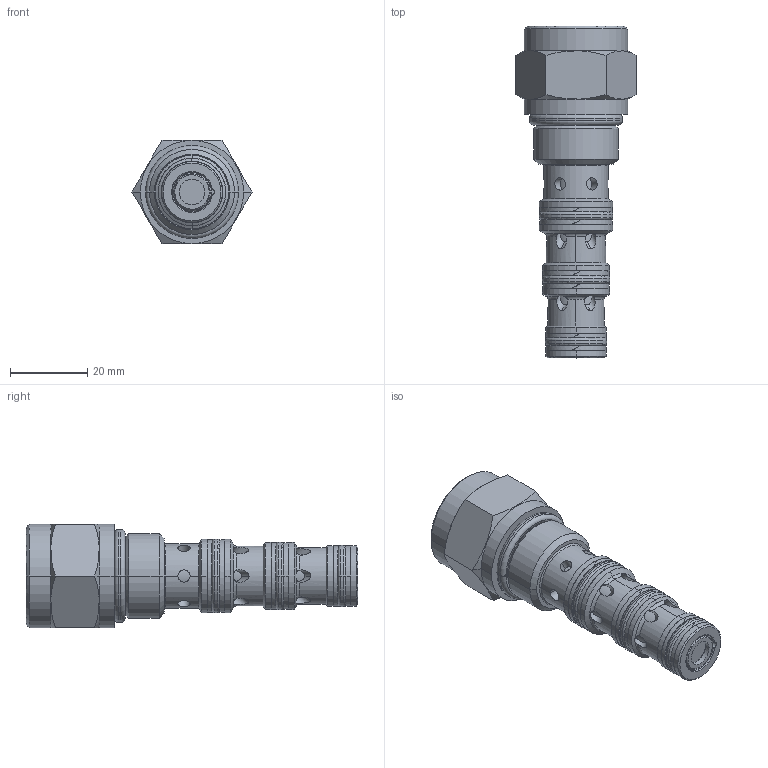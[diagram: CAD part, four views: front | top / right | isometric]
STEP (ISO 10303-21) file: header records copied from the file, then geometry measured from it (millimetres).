
FILE_DESCRIPTION((''),'2;1');
FILE_NAME('PDCV-10-C-0-A','2024-10-24T09:59:13',('salzmanm'),(''),'CREO PARAMETRIC BY PTC INC, 2022281','CREO PARAMETRIC BY PTC INC, 2022281','');
FILE_SCHEMA(('CONFIG_CONTROL_DESIGN'));
Length unit declared in the file: millimetre
Products named in the file (1): PDCV-10-C-0-A
Bounding box: 31.15 x 86.11 x 26.97 mm (x, y, z)
Volume: 29060.1 mm3; surface area: 9007.1 mm2
Topology: 1 solids, 2 shells, 264 faces, 687 edges, 432 vertices
Faces by surface type: cylinder 127, plane 56, torus 52, cone 29
Entity records: 13056 total; most frequent: CARTESIAN_POINT 6595, ORIENTED_EDGE 1374, DIRECTION 1362, EDGE_CURVE 687, AXIS2_PLACEMENT_3D 585, VERTEX_POINT 432, CIRCLE 321, EDGE_LOOP 283
